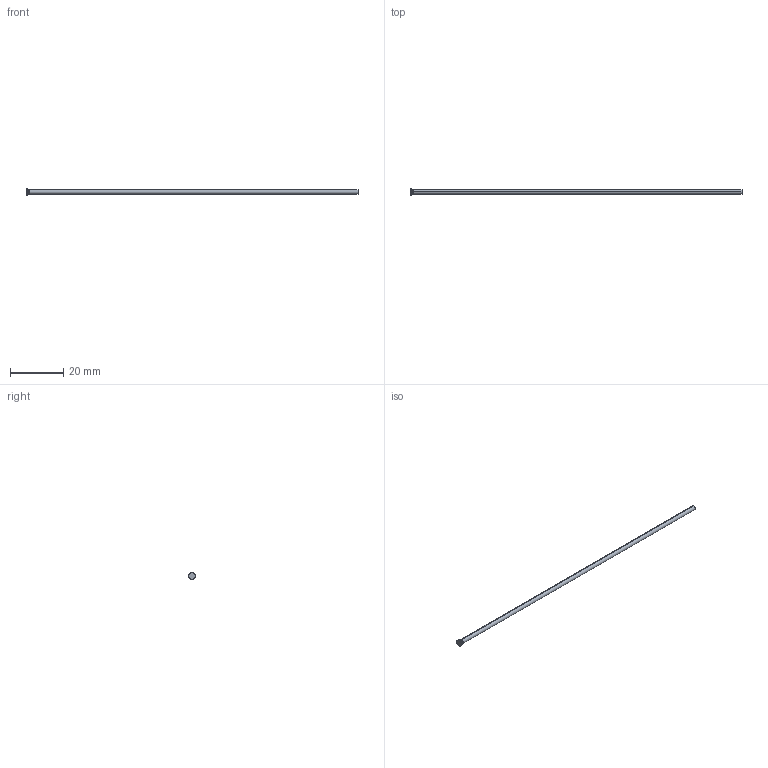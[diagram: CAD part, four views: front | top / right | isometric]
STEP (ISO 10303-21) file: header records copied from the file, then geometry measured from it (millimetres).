
FILE_DESCRIPTION (( 'STEP AP214' ), '1' );
FILE_NAME ('D-1,7x125.STEP', '2020-06-08T09:40:03', ( 'August' ), ( '' ), 'SwSTEP 2.0', 'SolidWorks 2018', '' );
FILE_SCHEMA (( 'AUTOMOTIVE_DESIGN' ));
Length unit declared in the file: millimetre
Products named in the file (1): D-1,7x125
Bounding box: 125 x 2.5 x 2.5 mm (x, y, z)
Volume: 285.9 mm3; surface area: 677.6 mm2
Topology: 1 solids, 1 shells, 10 faces, 18 edges, 10 vertices
Faces by surface type: cylinder 4, torus 2, cone 2, plane 2
Entity records: 280 total; most frequent: DIRECTION 52, CARTESIAN_POINT 39, ORIENTED_EDGE 36, AXIS2_PLACEMENT_3D 23, EDGE_CURVE 18, CIRCLE 12, EDGE_LOOP 10, FACE_OUTER_BOUND 10
